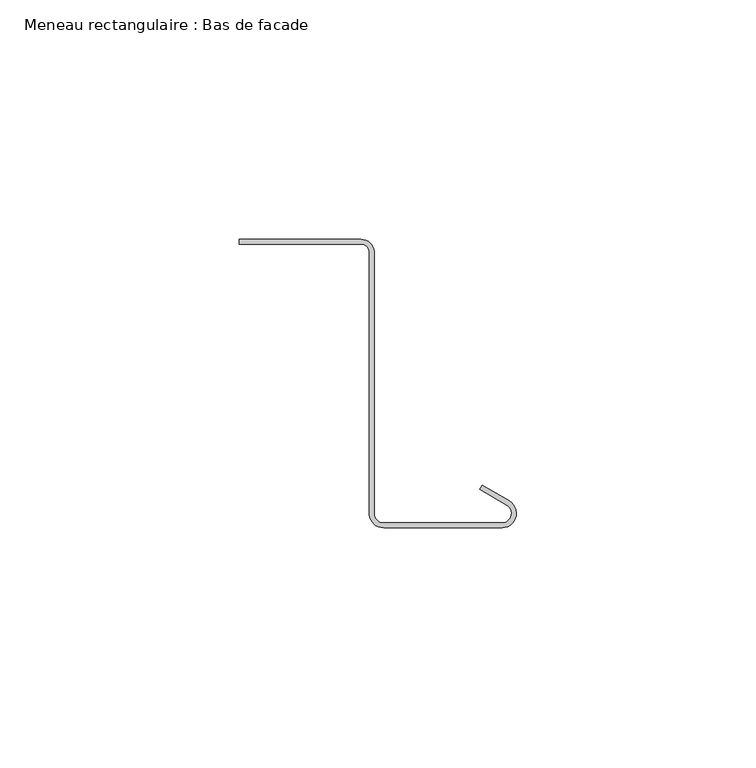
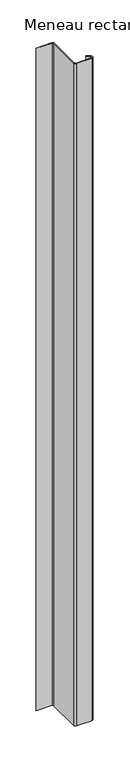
"""IFC4 building model written with IfcOpenShell, lengths in millimetres: member geometry, Meneau rectangulaire : Bas de facade."""

import ifcopenshell
import ifcopenshell.guid

model = None  # the IFC model being written
_history = None  # IfcOwnerHistory: only IFC2X3 demands one
_inside = {}  # id of a spatial element -> (the spatial element, [elements in it])
_under = {}  # id of a project, library or spatial element -> (it, [spatial elements below it])
_declared = {}  # id of a project -> (the project, [libraries it declares])
_typed = {}  # id of a type object -> (the type object, [elements of that type])
_made_of = {}  # id of a material, layer set ... -> (it, [elements and type objects made of it])


def new_model(schema):
    """Start an empty IFC model of exactly this schema.

    Asked for "IFC4X3", IfcOpenShell would pick the latest addendum, in which some entities
    have other attributes; the version numbers below select the first issue.
    IFC2X3 requires an IfcOwnerHistory on every rooted entity: one is made here for all.
    """
    global model, _history
    if schema == "IFC4X3":
        model = ifcopenshell.file(schema_version=(4, 3, 0, 0))
    else:
        model = ifcopenshell.file(schema=schema)
    _inside.clear()
    _under.clear()
    _declared.clear()
    _typed.clear()
    _made_of.clear()
    _history = None
    if model.schema == "IFC2X3":
        org = make("IfcOrganization", Name="unknown")
        user = make(
            "IfcPersonAndOrganization",
            ThePerson=make("IfcPerson", FamilyName="unknown"),
            TheOrganization=org,
        )
        app = make(
            "IfcApplication",
            ApplicationDeveloper=org,
            Version="unknown",
            ApplicationFullName="unknown",
            ApplicationIdentifier="unknown",
        )
        _history = make(
            "IfcOwnerHistory",
            OwningUser=user,
            OwningApplication=app,
            ChangeAction="ADDED",
            CreationDate=0,
        )
    return model


def make(cls, **values):
    """One entity of the class cls with the attributes given. An attribute that is None is left unset."""
    return model.create_entity(
        cls, **{name: value for name, value in values.items() if value is not None}
    )


def rooted(cls, **values):
    """An entity with a GlobalId (a new one), such as an element, a storey or a relation."""
    return make(cls, GlobalId=ifcopenshell.guid.new(), OwnerHistory=_history, **values)


def si_unit(unit_type, name, prefix=None):
    """IfcSIUnit, for example si_unit("LENGTHUNIT", "METRE", prefix="MILLI")."""
    return make("IfcSIUnit", UnitType=unit_type, Prefix=prefix, Name=name)


def assignment(units):
    """IfcUnitAssignment: the units of a project."""
    return None if units is None else make("IfcUnitAssignment", Units=units)


def point(xyz):
    """IfcCartesianPoint."""
    return None if xyz is None else make("IfcCartesianPoint", Coordinates=xyz)


def direction(xyz):
    """IfcDirection."""
    return None if xyz is None else make("IfcDirection", DirectionRatios=xyz)


def frame(location, z_axis=None, x_axis=None):
    """IfcAxis2Placement3D, a coordinate frame: its origin and axes. An axis left out is left unset."""
    return make(
        "IfcAxis2Placement3D",
        Location=point(location),
        Axis=direction(z_axis),
        RefDirection=direction(x_axis),
    )


def frame_2d(location, x_axis=None):
    """IfcAxis2Placement2D, a coordinate frame in the plane: its origin and x axis."""
    return make(
        "IfcAxis2Placement2D", Location=point(location), RefDirection=direction(x_axis)
    )


def origin():
    """The frame at (0, 0, 0) with its axes left unset."""
    return frame((0.0, 0.0, 0.0))


def place(relative_to, where):
    """IfcLocalPlacement: puts the frame where relative to a parent placement (None: the world)."""
    return make(
        "IfcLocalPlacement", PlacementRelTo=relative_to, RelativePlacement=where
    )


def context(
    kind, dimensions, precision=None, world=None, true_north=None, identifier=None
):
    """IfcGeometricRepresentationContext, for example the 3D "Model" context."""
    return make(
        "IfcGeometricRepresentationContext",
        ContextIdentifier=identifier,
        ContextType=kind,
        CoordinateSpaceDimension=dimensions,
        Precision=precision,
        WorldCoordinateSystem=world,
        TrueNorth=true_north,
    )


def project(units=None, contexts=None):
    """IfcProject with its units and contexts."""
    return rooted(
        "IfcProject",
        Name="project",
        RepresentationContexts=contexts,
        UnitsInContext=assignment(units),
    )


def spatial(cls, under=None, at=None, **own):
    """A site, building, storey or space (cls), placed at a placement, below another one or the project."""
    s = rooted(cls, ObjectPlacement=at, **own)
    if under is not None:
        _under.setdefault(under.id(), (under, []))[1].append(s)
    return s


def polyline(points):
    """IfcPolyline through the points."""
    return make("IfcPolyline", Points=[point(p) for p in points])


def circle_curve(where, radius):
    """IfcCircle in the frame where."""
    return make("IfcCircle", Position=where, Radius=radius)


def trimmed(basis, trim1, trim2, sense, master):
    """IfcTrimmedCurve: the piece of a basis curve between two trims."""
    return make(
        "IfcTrimmedCurve",
        BasisCurve=basis,
        Trim1=trim1,
        Trim2=trim2,
        SenseAgreement=sense,
        MasterRepresentation=master,
    )


def segment(curve, same_sense, transition):
    """IfcCompositeCurveSegment."""
    return make(
        "IfcCompositeCurveSegment",
        Transition=transition,
        SameSense=same_sense,
        ParentCurve=curve,
    )


def composite_curve(segments, self_intersect=None):
    """IfcCompositeCurve: segments joined end to end."""
    return make("IfcCompositeCurve", Segments=segments, SelfIntersect=self_intersect)


def outline(outer, holes=None, kind="AREA"):
    """IfcArbitraryClosedProfileDef: a profile drawn as a closed curve; with holes, ...WithVoids."""
    if holes is None:
        return make("IfcArbitraryClosedProfileDef", ProfileType=kind, OuterCurve=outer)
    return make(
        "IfcArbitraryProfileDefWithVoids",
        ProfileType=kind,
        OuterCurve=outer,
        InnerCurves=holes,
    )


def extrude(swept, where, along, depth):
    """IfcExtrudedAreaSolid: the profile swept, set in the frame where, extruded along a direction by depth."""
    return make(
        "IfcExtrudedAreaSolid",
        SweptArea=swept,
        Position=where,
        ExtrudedDirection=direction(along),
        Depth=depth,
    )


def shape(context_of_items, identifier, shape_type, items):
    """IfcShapeRepresentation: the items that make up one representation, for example the "Body"."""
    return make(
        "IfcShapeRepresentation",
        ContextOfItems=context_of_items,
        RepresentationIdentifier=identifier,
        RepresentationType=shape_type,
        Items=items,
    )


def source(mapping_origin, context_of_items, identifier, shape_type, items):
    """IfcRepresentationMap: a shape defined once, which mapped items show again and again."""
    return make(
        "IfcRepresentationMap",
        MappingOrigin=mapping_origin,
        MappedRepresentation=shape(context_of_items, identifier, shape_type, items),
    )


def transform(
    local_origin,
    x_axis=None,
    y_axis=None,
    z_axis=None,
    scale=None,
    scale2=None,
    scale3=None,
    uniform=True,
):
    """IfcCartesianTransformationOperator3D, or its non-uniform kind. x_axis, y_axis, z_axis: its Axis1, 2, 3."""
    if uniform:
        return make(
            "IfcCartesianTransformationOperator3D",
            Axis1=direction(x_axis),
            Axis2=direction(y_axis),
            LocalOrigin=point(local_origin),
            Scale=scale,
            Axis3=direction(z_axis),
        )
    return make(
        "IfcCartesianTransformationOperator3DnonUniform",
        Axis1=direction(x_axis),
        Axis2=direction(y_axis),
        LocalOrigin=point(local_origin),
        Scale=scale,
        Axis3=direction(z_axis),
        Scale2=scale2,
        Scale3=scale3,
    )


def mapped(mapping_source, mapping_target):
    """IfcMappedItem: shows the shape of a source again, moved by a transform."""
    return make(
        "IfcMappedItem", MappingSource=mapping_source, MappingTarget=mapping_target
    )


def made_of(thing, what):
    """Note that an element or type object is made of a material, layer set ...; save() writes the relation."""
    if what is not None:
        _made_of.setdefault(what.id(), (what, []))[1].append(thing)
    return thing


def element(
    cls,
    number,
    at=None,
    inside=None,
    cuts=None,
    type_object=None,
    material=None,
    context=None,
    identifier="Body",
    shape_type=None,
    held_by="IfcProductDefinitionShape",
    body=None,
    shapes=None,
    **own,
):
    """One element of the class cls, such as IfcWall. Its Tag is "e" and its number.

    at: its placement. inside: the storey or other place that contains it. cuts: it is an
    opening in that element (IfcRelVoidsElement). A single representation is given by context,
    identifier, shape_type and body (its items); several are given by shapes. held_by: the class
    of the entity that holds the representations. save() writes the other relations.
    """
    e = rooted(cls, Tag="e%d" % number, ObjectPlacement=at, **own)
    if body is not None:
        shapes = [shape(context, identifier, shape_type, body)]
    if shapes is not None:
        e.Representation = make(held_by, Representations=shapes)
    if inside is not None:
        _inside.setdefault(inside.id(), (inside, []))[1].append(e)
    if cuts is not None:
        rooted(
            "IfcRelVoidsElement", RelatingBuildingElement=cuts, RelatedOpeningElement=e
        )
    if type_object is not None:
        _typed.setdefault(type_object.id(), (type_object, []))[1].append(e)
    return made_of(e, material)


def aggregate(whole, parts):
    """IfcRelAggregates: a whole, such as a stair, and the parts it consists of."""
    return rooted("IfcRelAggregates", RelatingObject=whole, RelatedObjects=parts)


def save(model, path):
    """Write the relations noted so far, then the file.

    IfcRelAggregates (storeys below a building ...), IfcRelContainedInSpatialStructure (elements
    in a storey), IfcRelDefinesByType, IfcRelAssociatesMaterial and IfcRelDeclares: one each for
    every whole, place, type object, material and project.
    """
    for whole, parts in _under.values():
        aggregate(whole, parts)
    for where, things in _inside.values():
        rooted(
            "IfcRelContainedInSpatialStructure",
            RelatedElements=things,
            RelatingStructure=where,
        )
    for kind, things in _typed.values():
        rooted("IfcRelDefinesByType", RelatedObjects=things, RelatingType=kind)
    for what, things in _made_of.values():
        rooted("IfcRelAssociatesMaterial", RelatedObjects=things, RelatingMaterial=what)
    for by, libraries in _declared.values():
        rooted("IfcRelDeclares", RelatingContext=by, RelatedDefinitions=libraries)
    model.write(path)


def meneau_rectangulaire_bas_de_facade_e9d27f3a(model_context):
    return source(origin(), model_context, "Body", "SweptSolid", [
        extrude(outline(composite_curve([segment(trimmed(circle_curve(frame_2d((-32.4584179, 0.2088923)), 2.75), [point((-32.4584179, 2.9588923))], [point((-29.7143802, 0.3898824))], False, "CARTESIAN"), True, "CONTINUOUS"), segment(polyline([(-29.7143802, 0.3898824), (-29.7143802, -54.5495817)]), True, "CONTINUOUS"), segment(trimmed(circle_curve(frame_2d((-27.735368, -54.2605998)), 2.0), [point((-29.7143802, -54.5495817))], [point((-27.735368, -56.2605998))], True, "CARTESIAN"), True, "CONTINUOUS"), segment(polyline([(-27.735368, -56.2605998), (-3.0, -56.2605998)]), True, "CONTINUOUS"), segment(trimmed(circle_curve(frame_2d((-3.0, -54.2605998)), 2.0), [point((-3.0, -56.2605998))], [point((-2.0, -52.528549))], True, "CARTESIAN"), True, "CONTINUOUS"), segment(polyline([(-2.0, -52.528549), (-7.6638061, -49.258549), (-7.1638061, -48.3925235), (-1.5, -51.6625235)]), True, "CONTINUOUS"), segment(trimmed(circle_curve(frame_2d((-3.0, -54.2605998)), 3.0), [point((-1.5, -51.6625235))], [point((-3.0, -57.2605998))], False, "CARTESIAN"), True, "CONTINUOUS"), segment(polyline([(-3.0, -57.2605998), (-27.735368, -57.2605998)]), True, "CONTINUOUS"), segment(trimmed(circle_curve(frame_2d((-27.735368, -54.2605998)), 3.0), [point((-27.735368, -57.2605998))], [point((-30.7239521, -54.522067))], False, "CARTESIAN"), True, "CONTINUOUS"), segment(polyline([(-30.7239521, -54.522067), (-30.7239521, 0.4415475)]), True, "CONTINUOUS"), segment(trimmed(circle_curve(frame_2d((-32.4584179, 0.2088923)), 1.75), [point((-30.7239521, 0.4415475))], [point((-32.4584179, 1.9588923))], True, "CARTESIAN"), True, "CONTINUOUS"), segment(polyline([(-32.4584179, 1.9588923), (-57.8548383, 1.9588923), (-57.8548383, 2.9588923), (-32.4584179, 2.9588923)]), True, "CONTINUOUS")], self_intersect=False)), frame((0.0, 0.0, -1120.0), z_axis=(0.0, 0.0, 1.0), x_axis=(1.0, 0.0, 0.0)), (0.0, 0.0, 1.0), 1120.0),
    ])


if __name__ == "__main__":
    model = new_model("IFC4")
    model_context = context("Model", 3, world=origin())
    ifc_project = project(units=[si_unit("LENGTHUNIT", "METRE", prefix="MILLI")], contexts=[model_context])
    site = spatial("IfcSite", under=ifc_project)
    building = spatial("IfcBuilding", under=site)
    placement = place(None, origin())
    meneau_rectangulaire_bas_de_facade_shape = meneau_rectangulaire_bas_de_facade_e9d27f3a(model_context)
    element("IfcMember", 1, ObjectType="Meneau rectangulaire : Bas de facade", at=placement, inside=building, context=model_context, shape_type="MappedRepresentation", body=[
        mapped(meneau_rectangulaire_bas_de_facade_shape, transform((0.0, 0.0, 0.0), x_axis=(1.0, 0.0, 0.0), y_axis=(0.0, 1.0, 0.0), z_axis=(0.0, 0.0, 1.0))),
    ])
    save(model, "model.ifc")
